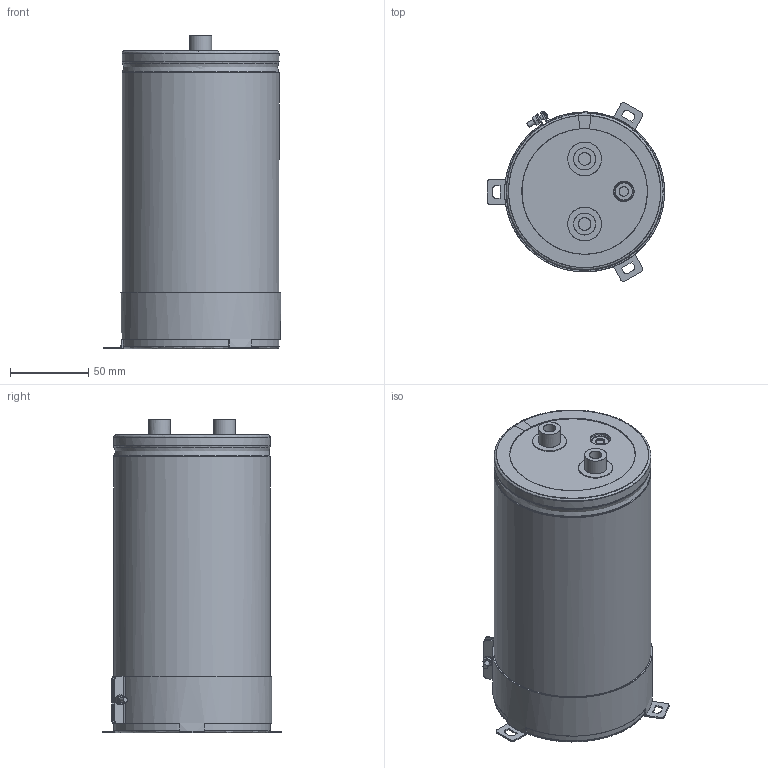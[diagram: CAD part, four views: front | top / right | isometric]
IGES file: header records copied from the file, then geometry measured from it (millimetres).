
Start section: JAMA-IS VERSION  1.0
Bounding box: 113 x 113.92 x 200 mm (x, y, z)
Surface area: 228618.7 mm2 (no closed solid volume)
Topology: 0 solids, 0 shells, 257 faces, 4488 edges, 4459 vertices
Faces by surface type: bspline 257
